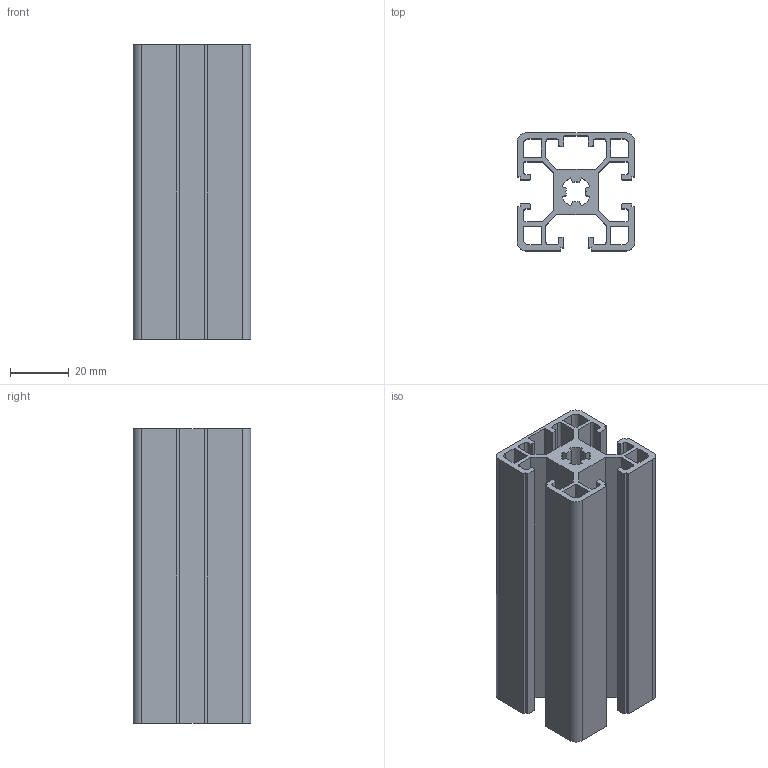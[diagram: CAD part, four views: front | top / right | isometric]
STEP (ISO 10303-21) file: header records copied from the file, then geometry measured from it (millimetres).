
FILE_DESCRIPTION (( 'STEP AP203' ), '1' );
FILE_NAME ('LIMA-4040L3S-8.STEP', '2018-03-15T12:33:23', ( '' ), ( '' ), 'SwSTEP 2.0', 'SolidWorks 2013', '' );
FILE_SCHEMA (( 'CONFIG_CONTROL_DESIGN' ));
Length unit declared in the file: millimetre
Products named in the file (1): LIMA-4040L3S-8
Bounding box: 40 x 40 x 100 mm (x, y, z)
Volume: 56683.4 mm3; surface area: 52676.4 mm2
Topology: 1 solids, 1 shells, 149 faces, 441 edges, 294 vertices
Faces by surface type: plane 98, cylinder 51
Entity records: 5078 total; most frequent: CARTESIAN_POINT 885, ORIENTED_EDGE 882, DIRECTION 843, EDGE_CURVE 441, LINE 339, VECTOR 339, VERTEX_POINT 294, AXIS2_PLACEMENT_3D 252
